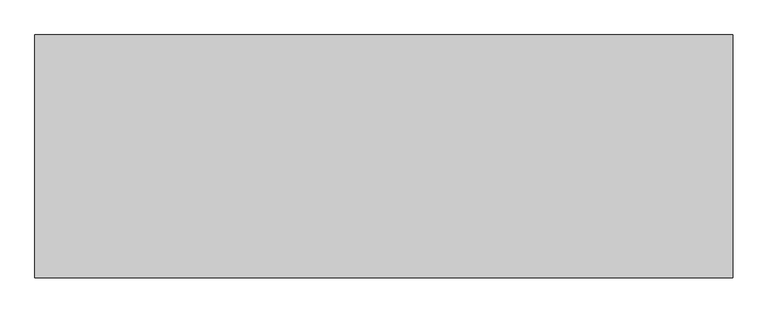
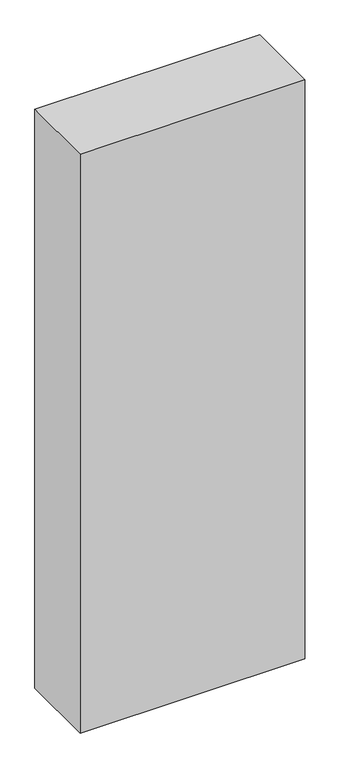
"""IFC4 building model written with IfcOpenShell, lengths in millimetres: proxy geometry."""

from ifc_helpers import new_model, si_unit, origin, origin_with_axes, place, context, project, spatial, polyline, outline, extrude, source, transform, mapped, element, save


def generic_models_1674ec7f(model_context):
    return source(origin(), model_context, "Body", "SweptSolid", [
        extrude(outline(polyline([(-67284.998776, -8100.4850099), (-67284.998776, -7700.4850099), (-66134.998776, -7700.4850099), (-66134.998776, -8100.4850099), (-67284.998776, -8100.4850099)])), origin_with_axes(), (0.0, 0.0, 1.0), 3130.0),
    ])


if __name__ == "__main__":
    model = new_model("IFC4")
    model_context = context("Model", 3, world=origin())
    ifc_project = project(units=[si_unit("LENGTHUNIT", "METRE", prefix="MILLI")], contexts=[model_context])
    site = spatial("IfcSite", under=ifc_project)
    building = spatial("IfcBuilding", under=site)
    placement = place(None, origin())
    generic_models_shape = generic_models_1674ec7f(model_context)
    element("IfcBuildingElementProxy", 1, Name="Generic Models", at=placement, inside=building, context=model_context, shape_type="MappedRepresentation", body=[
        mapped(generic_models_shape, transform((0.0, 0.0, 0.0), x_axis=(1.0, 0.0, 0.0), y_axis=(0.0, 1.0, 0.0), z_axis=(0.0, 0.0, 1.0))),
    ])
    save(model, "model.ifc")
